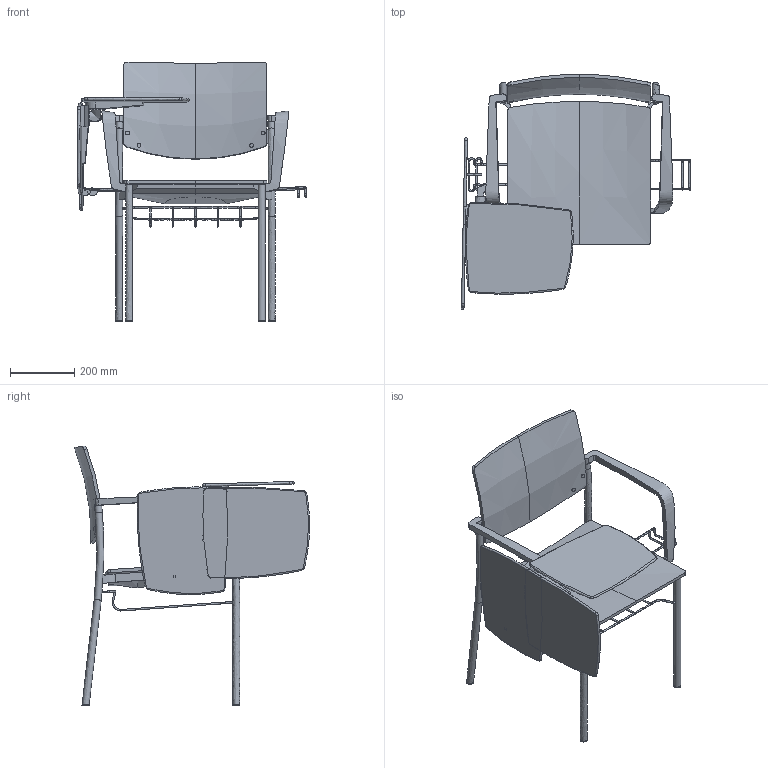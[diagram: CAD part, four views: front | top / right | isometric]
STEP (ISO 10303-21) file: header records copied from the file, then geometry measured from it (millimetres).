
FILE_DESCRIPTION(/* description */ (''),/* implementation_level */ '2;1');
FILE_NAME(/* name */ 'Seance 092-BR+dopl',/* time_stamp */ '2020-03-26T15:27:31+01:00',/* author */ (''),/* organization */ (''),/* preprocessor_version */ 'ST-DEVELOPER v16.5',/* originating_system */ '',/* authorisation */ '');
FILE_SCHEMA (('AUTOMOTIVE_DESIGN'));
Length unit declared in the file: millimetre
Products named in the file (1): Document
Bounding box: 712.65 x 731.3 x 807.99 mm (x, y, z)
Volume: 6547102.6 mm3; surface area: 2012486 mm2
Topology: 36 solids, 56 shells, 390 faces, 827 edges, 527 vertices
Faces by surface type: bspline 237, plane 153
Entity records: 18398 total; most frequent: CARTESIAN_POINT 12951, ORIENTED_EDGE 1608, EDGE_CURVE 824, VERTEX_POINT 521, EDGE_LOOP 398, B_SPLINE_CURVE_WITH_KNOTS 396, ADVANCED_FACE 390, FACE_OUTER_BOUND 390
